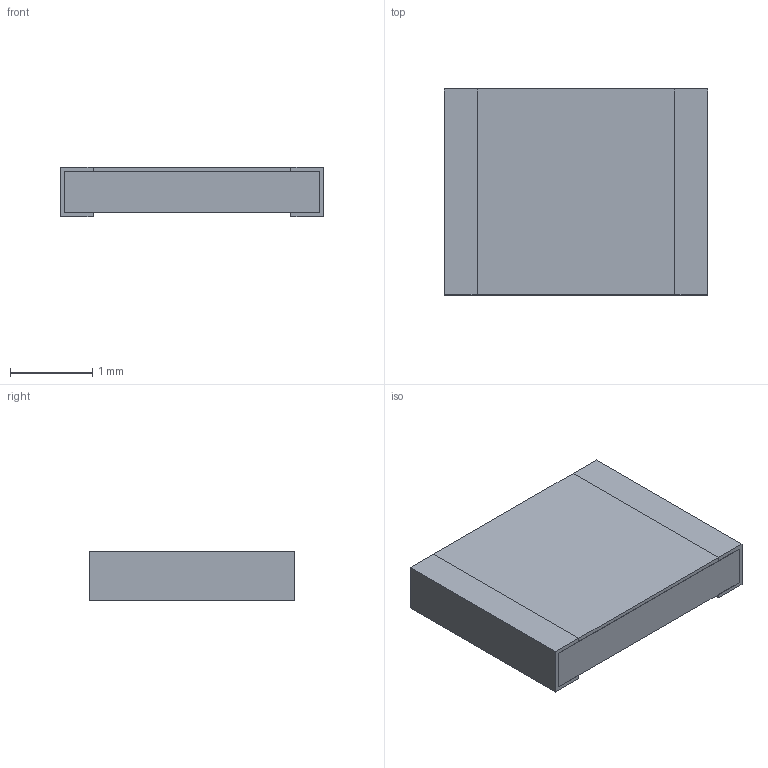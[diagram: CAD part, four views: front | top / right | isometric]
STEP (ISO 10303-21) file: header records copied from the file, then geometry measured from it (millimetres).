
FILE_DESCRIPTION(('STEP AP203'), '1');
FILE_NAME('P1-8B-1210', '', ('UNSPECIFIED'), ('UNSPECIFIED'), 'ASCON STEP Converter 1.6', 'ASCON Math Kernel', '');
FILE_SCHEMA(('CONFIG_CONTROL_DESIGN'));
Length unit declared in the file: millimetre
Bounding box: 3.2 x 2.5 x 0.6 mm (x, y, z)
Volume: 4.5 mm3; surface area: 47.6 mm2
Topology: 4 solids, 5 shells, 51 faces, 123 edges, 82 vertices
Faces by surface type: plane 47, cylinder 4
Entity records: 1937 total; most frequent: CARTESIAN_POINT 257, ORIENTED_EDGE 246, DIRECTION 235, EDGE_CURVE 123, LINE 115, VECTOR 115, VERTEX_POINT 82, AXIS2_PLACEMENT_3D 60
